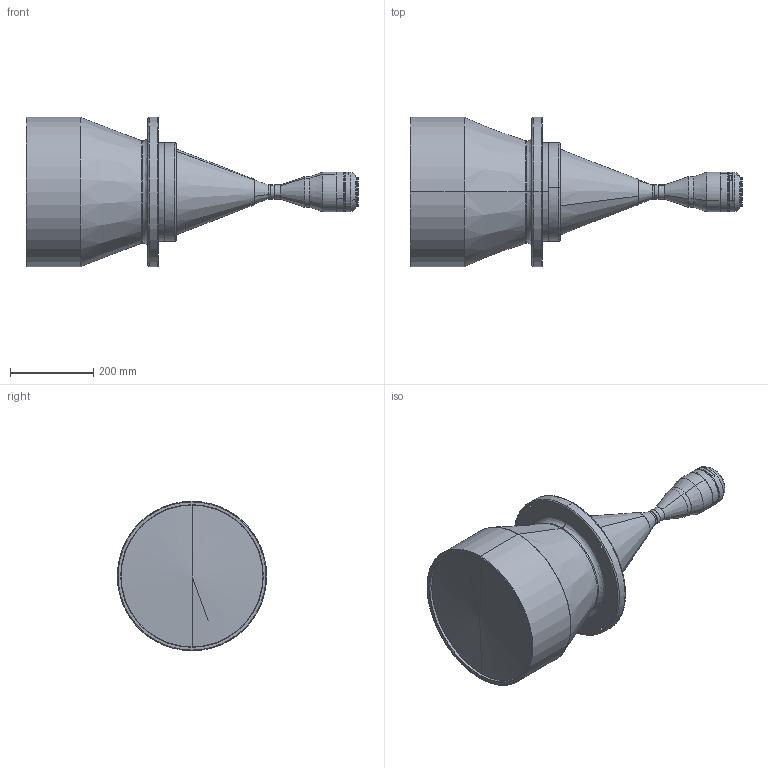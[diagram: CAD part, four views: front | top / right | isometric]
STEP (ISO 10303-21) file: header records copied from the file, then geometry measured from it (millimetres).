
FILE_DESCRIPTION (( 'STEP AP203' ), '1' );
FILE_NAME ('DTCM16K-300S-M72-AL.STEP', '2023-11-15T13:47:30', ( '' ), ( '' ), 'SwSTEP 2.0', 'SolidWorks 2017', '' );
FILE_SCHEMA (( 'CONFIG_CONTROL_DESIGN' ));
Length unit declared in the file: millimetre
Products named in the file (1): DTCM16K-300S-M72-AL
Bounding box: 796 x 358 x 358 mm (x, y, z)
Volume: 32299259.5 mm3; surface area: 739157.2 mm2
Topology: 1 solids, 5 shells, 150 faces, 338 edges, 211 vertices
Faces by surface type: cylinder 71, cone 37, plane 24, bspline 16, torus 2
Entity records: 5515 total; most frequent: CARTESIAN_POINT 2117, DIRECTION 718, ORIENTED_EDGE 672, EDGE_CURVE 336, AXIS2_PLACEMENT_3D 302, VERTEX_POINT 211, EDGE_LOOP 181, CIRCLE 167
